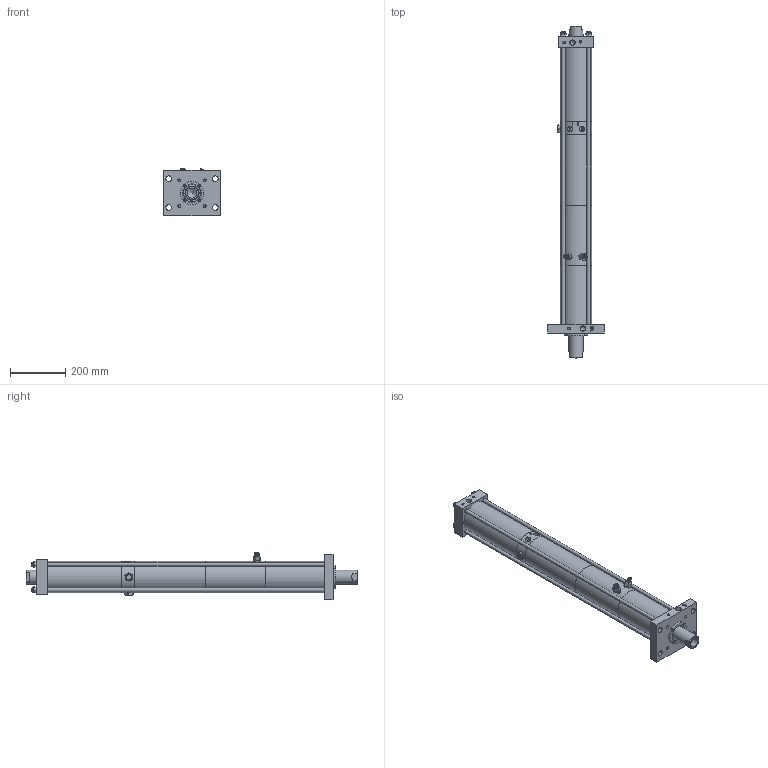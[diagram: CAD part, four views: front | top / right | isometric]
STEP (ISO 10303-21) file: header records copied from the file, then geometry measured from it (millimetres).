
FILE_DESCRIPTION (( 'STEP AP214' ), '1' );
FILE_NAME ('AH9-L-H Cylinder.STEP', '2024-02-21T14:19:10', ( '' ), ( '' ), 'SwSTEP 2.0', 'SolidWorks 2018', '' );
FILE_SCHEMA (( 'AUTOMOTIVE_DESIGN' ));
Length unit declared in the file: inch
Products named in the file (17): PD343_5315K47; HL9-03-WEB; HL9-13 web; HL-37; EMA3-0.25NPT-MA3; HL9-01 WEB; HL9-10_REV. A ; HL9-20-06 web; AH9-L-H Cylinder; 37559; HL9-11 web; HL9-14; HL9-20-15; HL9-12; HL9-04; HL9-02; HL9-20-07
Assembly tree (23 placements, depth 2):
  AH9-L-H Cylinder
    HL9-02
    HL9-03-WEB
    HL9-04
    HL9-01 WEB
    HL9-13 web
    HL9-12
    HL9-11 web
    HL9-14  x4
    37559  x4
    HL9-20-06 web
    HL9-20-07
    HL9-10_REV. A 
    EMA3-0.25NPT-MA3
    PD343_5315K47
    HL9-20-15
    HL-37  x2
Bounding box: 203.2 x 1203.26 x 173.16 mm (x, y, z)
Volume: 7272797.2 mm3; surface area: 1149186.2 mm2
Topology: 25 solids, 25 shells, 763 faces, 1805 edges, 1173 vertices
Faces by surface type: plane 288, cylinder 212, cone 154, torus 66, bspline 43
Full cylindrical faces by diameter (mm): 1.587 x1, 3.454 x4, 4.496 x4, 4.623 x1, 7.937 x6, 8.433 x2, 9.246 x1, 10.584 x4, 10.716 x4, 11.112 x2, 11.125 x2, 12.7 x4, 13.371 x4, 13.492 x4, 13.652 x2, 13.716 x7, 15.281 x4, 17.191 x4, 17.856 x4, 19.05 x4, 19.812 x2, 20.637 x4, 22.174 x1, 22.225 x1, 23.012 x2, 26.67 x2, 29.766 x1, 31.75 x1, 33.02 x1, 36.068 x1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
Entity records: 33129 total; most frequent: CARTESIAN_POINT 16506, DIRECTION 2661, ORIENTED_EDGE 2418, EDGE_CURVE 1209, AXIS2_PLACEMENT_3D 1120, EDGE_LOOP 948, VERTEX_POINT 889, FACE_OUTER_BOUND 728
